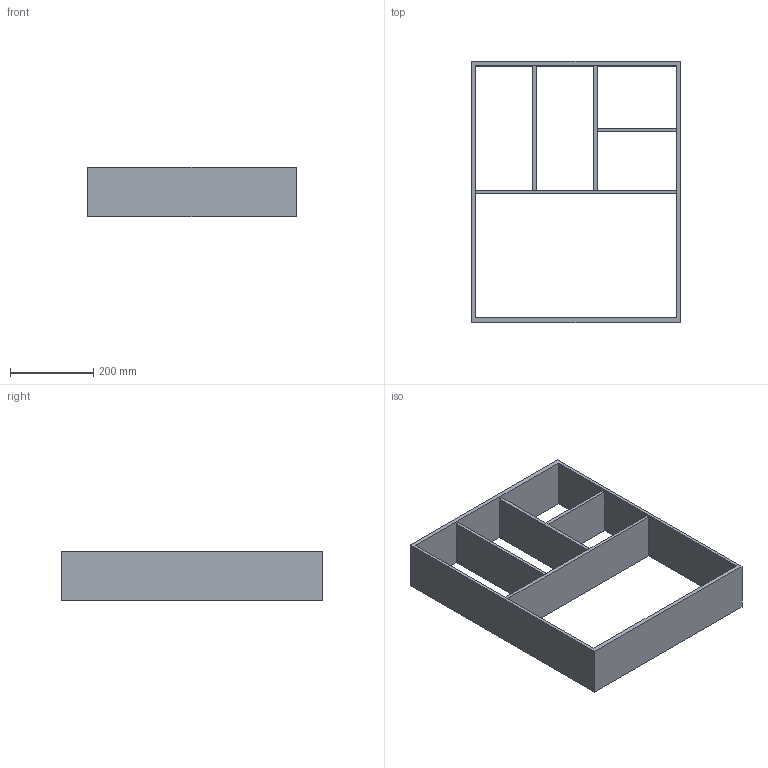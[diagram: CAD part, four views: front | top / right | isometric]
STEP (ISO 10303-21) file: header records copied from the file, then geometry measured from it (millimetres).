
FILE_DESCRIPTION (( 'STEP AP214' ), '1' );
FILE_NAME ('Vario Multi H120 NL650_B600_19 mm_Alu-Buche.step', '2010-10-08T09:47:51', ( 'grass' ), ( '' ), 'SwSTEP 2.0', 'SolidWorks 2010', '' );
FILE_SCHEMA (( 'AUTOMOTIVE_DESIGN' ));
Length unit declared in the file: millimetre
Products named in the file (1): Vario Multi H120 NL650_B600_19 mm_Alu-Buche
Bounding box: 502 x 629 x 120 mm (x, y, z)
Volume: 3655629.7 mm3; surface area: 879647.1 mm2
Topology: 1 solids, 1 shells, 29 faces, 80 edges, 52 vertices
Faces by surface type: plane 29
Entity records: 956 total; most frequent: CARTESIAN_POINT 162, ORIENTED_EDGE 160, DIRECTION 140, LINE 80, VECTOR 80, EDGE_CURVE 80, VERTEX_POINT 52, EDGE_LOOP 38
